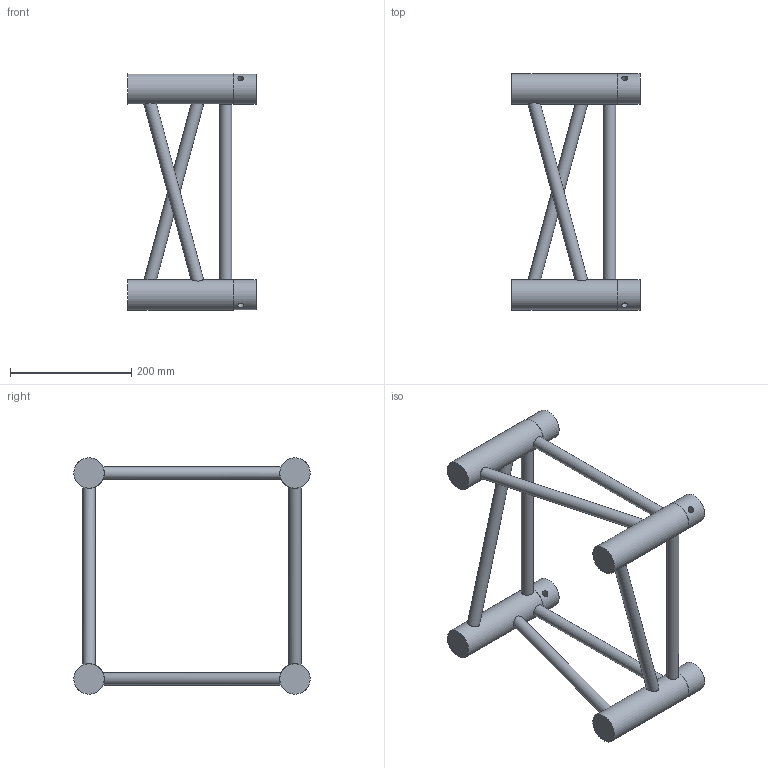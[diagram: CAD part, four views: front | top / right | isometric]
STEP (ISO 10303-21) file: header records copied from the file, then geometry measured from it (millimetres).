
FILE_DESCRIPTION(/* description */ (''),/* implementation_level */ '2;1');
FILE_NAME(/* name */ 'M:\Symbolen_NIEUW\STP\Boxcorner\111130028.stp',/* time_stamp */ '2015-06-08T11:28:31+02:00',/* author */ ('Sietse'),/* organization */ (''),/* preprocessor_version */ 'ST-DEVELOPER v15.6',/* originating_system */ 'Autodesk Inventor 2015',/* authorisation */ '');
FILE_SCHEMA (('AUTOMOTIVE_DESIGN { 1 0 10303 214 3 1 1 }'));
Length unit declared in the file: millimetre
Products named in the file (1): 160024386
Bounding box: 211 x 388.81 x 388.81 mm (x, y, z)
Volume: 2376309.5 mm3; surface area: 307069.6 mm2
Topology: 12 solids, 12 shells, 64 faces, 112 edges, 72 vertices
Faces by surface type: plane 36, cylinder 28
Full cylindrical faces by diameter (mm): 10 x4, 20 x8, 49.5 x4, 50 x4
Entity records: 1827 total; most frequent: CARTESIAN_POINT 657, DIRECTION 218, ORIENTED_EDGE 176, AXIS2_PLACEMENT_3D 105, EDGE_LOOP 104, EDGE_CURVE 80, VERTEX_POINT 64, STYLED_ITEM 57
